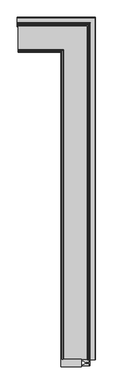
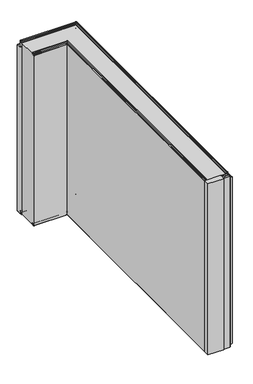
"""IFC4 building model written with IfcOpenShell, lengths in millimetres: plate geometry, Угловой модуль Fronttop : Угловой модуль Fronttop 150/1000."""

from ifc_helpers import new_model, si_unit, point, frame, frame_2d, origin, origin_with_axes, place, context, project, spatial, polyline, circle_curve, ellipse_curve, trimmed, segment, composite_curve, outline, extrude, source, transform, mapped, element, save
from ifc_brep_helpers import plane_surface, cylinder_surface, revolved_surface, advanced_brep


def plate_8fd71738(model_context):
    return source(origin(), model_context, "Body", "SolidModel", [
        extrude(outline(polyline([(150.0, -1323.4948846), (150.0, -1346.5051154), (148.5, -1346.5051154), (148.5, -1335.6502496), (134.0759655, -1335.6502496), (134.0759655, -1334.35), (148.5, -1334.35), (148.5, -1323.4948846), (150.0, -1323.4948846)])), origin_with_axes(), (0.0, 0.0, 1.0), 1000.0),
        extrude(outline(composite_curve([segment(polyline([(148.5, -1322.4998455), (148.5, -1334.25), (132.5, -1334.25), (132.5, -1335.75), (148.5, -1335.75), (148.5, -1347.5001545), (115.0, -1347.5001545), (115.0, -1344.75), (117.5, -1344.75)]), True, "CONTINUOUS"), segment(trimmed(circle_curve(frame_2d((114.3183984, -1326.9661979)), 18.0661619), [point((117.5, -1344.75))], [point((130.5, -1335.0))], True, "CARTESIAN"), True, "CONTINUOUS"), segment(trimmed(circle_curve(frame_2d((114.3183984, -1343.0338021)), 18.0661619), [point((130.5, -1335.0))], [point((117.5, -1325.25))], True, "CARTESIAN"), True, "CONTINUOUS"), segment(polyline([(117.5, -1325.25), (115.0, -1325.25), (115.0, -1322.4998455), (148.5, -1322.4998455)]), True, "CONTINUOUS")], self_intersect=False)), origin_with_axes(), (0.0, 0.0, 1.0), 1000.0),
        extrude(outline(polyline([(25.0, -1350.5), (25.0, -1319.5), (113.0, -1319.5), (113.0, -1350.5), (25.0, -1350.5)])), origin_with_axes(), (0.0, 0.0, 1.0), 1000.0),
        advanced_brep(
        [(-161.5, 124.0, 1008.0), (-161.5, 121.0, 1008.0), (-161.5, 121.0, 1004.0), (-161.5, 117.0, 1000.0), (-161.5, 115.0, 1000.0), (-161.5, 115.0, 1001.0), (-161.5, 117.0, 1001.0), (-161.5, 120.0, 1004.0), (-161.5, 120.0, 1008.0), (-161.5, 125.0, 1008.0), (-161.5, 125.0, 1000.0), (-161.5, 124.0, 1000.0), (-161.5, 115.0, 2.0), (140.0, 115.0, 2.0), (140.0, 115.0, 3.0), (-161.5, 115.0, 3.0), (140.0, -1321.5, 3.0), (142.0, -1321.5, 3.0), (142.0, 117.0, 3.0), (-161.5, 117.0, 3.0), (143.0, 118.0, 4.0), (-161.5, 118.0, 4.0), (143.0, 118.0, 8.0), (-161.5, 118.0, 8.0), (152.0, 127.0, 8.0), (-161.5, 127.0, 8.0), (152.0, 127.0, 0.0), (-161.5, 127.0, 0.0), (154.0, 129.0, -2.0), (-161.5, 129.0, -2.0), (154.0, -1321.5, -2.0), (172.0, -1321.5, -2.0), (172.0, 147.0, -2.0), (-161.5, 147.0, -2.0), (174.0, 149.0, 0.0), (-161.5, 149.0, 0.0), (174.0, 149.0, 969.0), (-161.5, 149.0, 969.0), (172.0, 147.0, 971.0), (-161.5, 147.0, 971.0), (172.0, -1321.5, 971.0), (153.0, -1321.5, 971.0), (153.0, 128.0, 971.0), (-161.5, 128.0, 971.0), (149.0, 124.0, 975.0), (-161.5, 124.0, 975.0), (149.0, 124.0, 1008.0), (146.0, 121.0, 1008.0), (146.0, 121.0, 1004.0), (142.0, 117.0, 1000.0), (142.0, -1321.5, 1000.0), (140.0, -1321.5, 1000.0), (140.0, 115.0, 1000.0), (140.0, 115.0, 1001.0), (140.0, -1321.5, 1001.0), (142.0, -1321.5, 1001.0), (142.0, 117.0, 1001.0), (145.0, 120.0, 1004.0), (145.0, 120.0, 1008.0), (150.0, 125.0, 1008.0), (150.0, 125.0, 975.0), (-161.5, 125.0, 975.0), (-162.5, 125.0, 975.0), (-162.5, 125.0, 1000.0), (153.0, 128.0, 972.0), (-161.5, 128.0, 972.0), (153.0, -1321.5, 972.0), (153.0, -1322.5, 972.0), (172.0, -1322.5, 972.0), (172.0, -1321.5, 972.0), (172.0, 147.0, 972.0), (-161.5, 147.0, 972.0), (-162.5, 147.0, 972.0), (-162.5, 128.0, 972.0), (175.0, 150.0, 969.0), (-161.5, 150.0, 969.0), (175.0, 150.0, 0.0), (-161.5, 150.0, 0.0), (-162.5, 150.0, 0.0), (-162.5, 150.0, 969.0), (172.0, 147.0, -3.0), (-161.5, 147.0, -3.0), (172.0, -1321.5, -3.0), (172.0, -1322.5, -3.0), (150.0, -1322.5, -3.0), (150.0, -1321.5, -3.0), (154.0, -1321.5, -3.0), (154.0, 129.0, -3.0), (-161.5, 129.0, -3.0), (-161.5, 125.0, -3.0), (-162.5, 125.0, -3.0), (-162.5, 147.0, -3.0), (151.0, 126.0, 0.0), (-161.5, 126.0, 0.0), (151.0, 126.0, 8.0), (-161.5, 126.0, 8.0), (144.0, 119.0, 8.0), (-161.5, 119.0, 8.0), (144.0, 119.0, 4.0), (-161.5, 119.0, 4.0), (142.0, 117.0, 2.0), (-161.5, 117.0, 2.0), (142.0, -1321.5, 2.0), (140.0, -1321.5, 2.0), (146.0, -1321.5, 1004.0), (146.0, -1321.5, 1008.0), (149.0, -1321.5, 1008.0), (149.0, -1321.5, 1000.0), (150.0, -1321.5, 1000.0), (150.0, -1321.5, 1008.0), (145.0, -1321.5, 1008.0), (145.0, -1321.5, 1004.0), (143.0, -1321.5, 4.0), (143.0, -1321.5, 8.0), (152.0, -1321.5, 8.0), (152.0, -1321.5, 0.0), (174.0, -1321.5, 0.0), (174.0, -1321.5, 969.0), (149.0, -1321.5, 975.0), (150.0, -1322.5, 1000.0), (150.0, -1322.5, 975.0), (150.0, -1321.5, 975.0), (175.0, -1321.5, 969.0), (175.0, -1322.5, 969.0), (175.0, -1322.5, 0.0), (175.0, -1321.5, 0.0), (151.0, -1321.5, 0.0), (151.0, -1321.5, 8.0), (144.0, -1321.5, 8.0), (144.0, -1321.5, 4.0), (-161.5, 110.0, 1000.0), (-161.5, 110.0, 0.0), (-161.5, 125.0, 0.0), (-162.5, 125.0, 0.0), (-162.5, 110.0, 0.0), (-162.5, 110.0, 1000.0), (135.0, -1321.5, 0.0), (135.0, -1321.5, 1000.0), (150.0, -1321.5, 0.0), (135.0, -1322.5, 0.0), (150.0, -1322.5, 0.0), (135.0, -1322.5, 1000.0)],
        [
            (0, 1, circle_curve(frame((-161.5, 122.5, 1008.0), z_axis=(1.0, 0.0, 0.0), x_axis=(0.0, -1.0, 0.0)), 1.5)),
            (1, 2),
            (2, 3, circle_curve(frame((-161.5, 117.0, 1004.0), z_axis=(-1.0, 0.0, 0.0), x_axis=(0.0, -1.0, 0.0)), 4.0)),
            (3, 4),
            (4, 5),
            (5, 6),
            (6, 7, circle_curve(frame((-161.5, 117.0, 1004.0), z_axis=(1.0, 0.0, 0.0), x_axis=(0.0, -1.0, 0.0)), 3.0)),
            (7, 8),
            (8, 9, circle_curve(frame((-161.5, 122.5, 1008.0), z_axis=(-1.0, 0.0, 0.0), x_axis=(0.0, -1.0, 0.0)), 2.5)),
            (9, 10),
            (10, 11),
            (11, 0),
            (12, 13),
            (13, 14),
            (14, 15),
            (15, 12),
            (14, 16),
            (16, 17),
            (17, 18),
            (18, 19),
            (19, 15),
            (18, 20, ellipse_curve(frame((142.0, 117.0, 4.0), z_axis=(0.7071067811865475, -0.7071067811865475, 0.0), x_axis=(0.7071067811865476, 0.7071067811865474, 0.0)), 1.4142136, 1.0)),
            (20, 21),
            (21, 19, circle_curve(frame((-161.5, 117.0, 4.0), z_axis=(-1.0, 0.0, 0.0), x_axis=(0.0, -1.0, 0.0)), 1.0)),
            (20, 22),
            (22, 23),
            (23, 21),
            (22, 24, ellipse_curve(frame((147.5, 122.5, 8.0), z_axis=(-0.7071067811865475, 0.7071067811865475, 0.0), x_axis=(-0.7071067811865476, -0.7071067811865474, 0.0)), 6.363961, 4.5)),
            (24, 25),
            (25, 23, circle_curve(frame((-161.5, 122.5, 8.0), z_axis=(1.0, 0.0, 0.0), x_axis=(0.0, -1.0, 0.0)), 4.5)),
            (24, 26),
            (26, 27),
            (27, 25),
            (26, 28, ellipse_curve(frame((154.0, 129.0, 0.0), z_axis=(0.7071067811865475, -0.7071067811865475, 0.0), x_axis=(0.7071067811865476, 0.7071067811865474, 0.0)), 2.8284271, 2.0)),
            (28, 29),
            (29, 27, circle_curve(frame((-161.5, 129.0, 0.0), z_axis=(-1.0, 0.0, 0.0), x_axis=(0.0, -1.0, 0.0)), 2.0)),
            (28, 30),
            (30, 31),
            (31, 32),
            (32, 33),
            (33, 29),
            (32, 34, ellipse_curve(frame((172.0, 147.0, 0.0), z_axis=(0.7071067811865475, -0.7071067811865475, 0.0), x_axis=(0.7071067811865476, 0.7071067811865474, 0.0)), 2.8284271, 2.0)),
            (34, 35),
            (35, 33, circle_curve(frame((-161.5, 147.0, 0.0), z_axis=(-1.0, 0.0, 0.0), x_axis=(0.0, -1.0, 0.0)), 2.0)),
            (34, 36),
            (36, 37),
            (37, 35),
            (36, 38, ellipse_curve(frame((172.0, 147.0, 969.0), z_axis=(0.7071067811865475, -0.7071067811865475, 0.0), x_axis=(0.7071067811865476, 0.7071067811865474, 0.0)), 2.8284271, 2.0)),
            (38, 39),
            (39, 37, circle_curve(frame((-161.5, 147.0, 969.0), z_axis=(-1.0, 0.0, 0.0), x_axis=(0.0, -1.0, 0.0)), 2.0)),
            (38, 40),
            (40, 41),
            (41, 42),
            (42, 43),
            (43, 39),
            (42, 44, ellipse_curve(frame((153.0, 128.0, 975.0), z_axis=(-0.7071067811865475, 0.7071067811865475, 0.0), x_axis=(-0.7071067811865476, -0.7071067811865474, 0.0)), 5.6568542, 4.0)),
            (44, 45),
            (45, 43, circle_curve(frame((-161.5, 128.0, 975.0), z_axis=(1.0, 0.0, 0.0), x_axis=(0.0, -1.0, 0.0)), 4.0)),
            (44, 46),
            (46, 0),
            (11, 45),
            (46, 47, ellipse_curve(frame((147.5, 122.5, 1008.0), z_axis=(0.7071067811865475, -0.7071067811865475, 0.0), x_axis=(0.7071067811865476, 0.7071067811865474, 0.0)), 2.1213203, 1.5)),
            (47, 1),
            (47, 48),
            (48, 2),
            (48, 49, ellipse_curve(frame((142.0, 117.0, 1004.0), z_axis=(-0.7071067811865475, 0.7071067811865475, 0.0), x_axis=(-0.7071067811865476, -0.7071067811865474, 0.0)), 5.6568542, 4.0)),
            (49, 3),
            (49, 50),
            (50, 51),
            (51, 52),
            (52, 4),
            (4, 3),
            (52, 53),
            (53, 5),
            (53, 54),
            (54, 55),
            (55, 56),
            (56, 6),
            (56, 57, ellipse_curve(frame((142.0, 117.0, 1004.0), z_axis=(0.7071067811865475, -0.7071067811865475, 0.0), x_axis=(0.7071067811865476, 0.7071067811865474, 0.0)), 4.2426407, 3.0)),
            (57, 7),
            (57, 58),
            (58, 8),
            (58, 59, ellipse_curve(frame((147.5, 122.5, 1008.0), z_axis=(-0.7071067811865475, 0.7071067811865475, 0.0), x_axis=(-0.7071067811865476, -0.7071067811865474, 0.0)), 3.5355339, 2.5)),
            (59, 9),
            (59, 60),
            (60, 61),
            (61, 62),
            (62, 63),
            (63, 10),
            (60, 64, ellipse_curve(frame((153.0, 128.0, 975.0), z_axis=(0.7071067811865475, -0.7071067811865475, 0.0), x_axis=(0.7071067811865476, 0.7071067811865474, 0.0)), 4.2426407, 3.0)),
            (64, 65),
            (65, 61, circle_curve(frame((-161.5, 128.0, 975.0), z_axis=(-1.0, 0.0, 0.0), x_axis=(0.0, -1.0, 0.0)), 3.0)),
            (64, 66),
            (66, 67),
            (67, 68),
            (68, 69),
            (69, 70),
            (70, 71),
            (71, 72),
            (72, 73),
            (73, 65),
            (70, 74, ellipse_curve(frame((172.0, 147.0, 969.0), z_axis=(-0.7071067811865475, 0.7071067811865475, 0.0), x_axis=(-0.7071067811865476, -0.7071067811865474, 0.0)), 4.2426407, 3.0)),
            (74, 75),
            (75, 71, circle_curve(frame((-161.5, 147.0, 969.0), z_axis=(1.0, 0.0, 0.0), x_axis=(0.0, -1.0, 0.0)), 3.0)),
            (74, 76),
            (76, 77),
            (77, 78),
            (78, 79),
            (79, 75),
            (76, 80, ellipse_curve(frame((172.0, 147.0, 0.0), z_axis=(-0.7071067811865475, 0.7071067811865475, 0.0), x_axis=(-0.7071067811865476, -0.7071067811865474, 0.0)), 4.2426407, 3.0)),
            (80, 81),
            (81, 77, circle_curve(frame((-161.5, 147.0, 0.0), z_axis=(1.0, 0.0, 0.0), x_axis=(0.0, -1.0, 0.0)), 3.0)),
            (80, 82),
            (82, 83),
            (83, 84),
            (84, 85),
            (85, 86),
            (86, 87),
            (87, 88),
            (88, 89),
            (89, 90),
            (90, 91),
            (91, 81),
            (87, 92, ellipse_curve(frame((154.0, 129.0, 0.0), z_axis=(-0.7071067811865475, 0.7071067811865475, 0.0), x_axis=(-0.7071067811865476, -0.7071067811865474, 0.0)), 4.2426407, 3.0)),
            (92, 93),
            (93, 88, circle_curve(frame((-161.5, 129.0, 0.0), z_axis=(1.0, 0.0, 0.0), x_axis=(0.0, -1.0, 0.0)), 3.0)),
            (92, 94),
            (94, 95),
            (95, 93),
            (94, 96, ellipse_curve(frame((147.5, 122.5, 8.0), z_axis=(0.7071067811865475, -0.7071067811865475, 0.0), x_axis=(0.7071067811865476, 0.7071067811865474, 0.0)), 4.9497475, 3.5)),
            (96, 97),
            (97, 95, circle_curve(frame((-161.5, 122.5, 8.0), z_axis=(-1.0, 0.0, 0.0), x_axis=(0.0, -1.0, 0.0)), 3.5)),
            (96, 98),
            (98, 99),
            (99, 97),
            (98, 100, ellipse_curve(frame((142.0, 117.0, 4.0), z_axis=(-0.7071067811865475, 0.7071067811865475, 0.0), x_axis=(-0.7071067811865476, -0.7071067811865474, 0.0)), 2.8284271, 2.0)),
            (100, 101),
            (101, 99, circle_curve(frame((-161.5, 117.0, 4.0), z_axis=(1.0, 0.0, 0.0), x_axis=(0.0, -1.0, 0.0)), 2.0)),
            (12, 101),
            (100, 102),
            (102, 103),
            (103, 13),
            (54, 51),
            (51, 50),
            (50, 104, circle_curve(frame((142.0, -1321.5, 1004.0), z_axis=(0.0, -1.0, 0.0), x_axis=(-1.0, 0.0, 0.0)), 4.0)),
            (104, 105),
            (105, 106, circle_curve(frame((147.5, -1321.5, 1008.0), z_axis=(0.0, 1.0, 0.0), x_axis=(-1.0, 0.0, 0.0)), 1.5)),
            (106, 107),
            (107, 108),
            (108, 109),
            (109, 110, circle_curve(frame((147.5, -1321.5, 1008.0), z_axis=(0.0, -1.0, 0.0), x_axis=(-1.0, 0.0, 0.0)), 2.5)),
            (110, 111),
            (111, 55, circle_curve(frame((142.0, -1321.5, 1004.0), z_axis=(0.0, 1.0, 0.0), x_axis=(-1.0, 0.0, 0.0)), 3.0)),
            (103, 16),
            (17, 112, circle_curve(frame((142.0, -1321.5, 4.0), z_axis=(0.0, -1.0, 0.0), x_axis=(-1.0, 0.0, 0.0)), 1.0)),
            (112, 20),
            (112, 113),
            (113, 22),
            (113, 114, circle_curve(frame((147.5, -1321.5, 8.0), z_axis=(0.0, 1.0, 0.0), x_axis=(-1.0, 0.0, 0.0)), 4.5)),
            (114, 24),
            (114, 115),
            (115, 26),
            (115, 30, circle_curve(frame((154.0, -1321.5, 0.0), z_axis=(0.0, -1.0, 0.0), x_axis=(-1.0, 0.0, 0.0)), 2.0)),
            (31, 116, circle_curve(frame((172.0, -1321.5, 0.0), z_axis=(0.0, -1.0, 0.0), x_axis=(-1.0, 0.0, 0.0)), 2.0)),
            (116, 34),
            (116, 117),
            (117, 36),
            (117, 40, circle_curve(frame((172.0, -1321.5, 969.0), z_axis=(0.0, -1.0, 0.0), x_axis=(-1.0, 0.0, 0.0)), 2.0)),
            (41, 118, circle_curve(frame((153.0, -1321.5, 975.0), z_axis=(0.0, 1.0, 0.0), x_axis=(-1.0, 0.0, 0.0)), 4.0)),
            (118, 44),
            (118, 107),
            (106, 46),
            (105, 47),
            (104, 48),
            (111, 57),
            (110, 58),
            (109, 59),
            (108, 119),
            (119, 120),
            (120, 121),
            (121, 60),
            (121, 66, circle_curve(frame((153.0, -1321.5, 975.0), z_axis=(0.0, -1.0, 0.0), x_axis=(-1.0, 0.0, 0.0)), 3.0)),
            (69, 122, circle_curve(frame((172.0, -1321.5, 969.0), z_axis=(0.0, 1.0, 0.0), x_axis=(-1.0, 0.0, 0.0)), 3.0)),
            (122, 74),
            (122, 123),
            (123, 124),
            (124, 125),
            (125, 76),
            (125, 82, circle_curve(frame((172.0, -1321.5, 0.0), z_axis=(0.0, 1.0, 0.0), x_axis=(-1.0, 0.0, 0.0)), 3.0)),
            (86, 126, circle_curve(frame((154.0, -1321.5, 0.0), z_axis=(0.0, 1.0, 0.0), x_axis=(-1.0, 0.0, 0.0)), 3.0)),
            (126, 92),
            (126, 127),
            (127, 94),
            (127, 128, circle_curve(frame((147.5, -1321.5, 8.0), z_axis=(0.0, -1.0, 0.0), x_axis=(-1.0, 0.0, 0.0)), 3.5)),
            (128, 96),
            (128, 129),
            (129, 98),
            (129, 102, circle_curve(frame((142.0, -1321.5, 4.0), z_axis=(0.0, 1.0, 0.0), x_axis=(-1.0, 0.0, 0.0)), 2.0)),
            (130, 131),
            (131, 132),
            (132, 89),
            (11, 3),
            (4, 130),
            (62, 73, circle_curve(frame((-162.5, 128.0, 975.0), z_axis=(1.0, 0.0, 0.0), x_axis=(0.0, 1.0, 0.0)), 3.0)),
            (72, 79, circle_curve(frame((-162.5, 147.0, 969.0), z_axis=(-1.0, 0.0, 0.0), x_axis=(0.0, 1.0, 0.0)), 3.0)),
            (78, 91, circle_curve(frame((-162.5, 147.0, 0.0), z_axis=(-1.0, 0.0, 0.0), x_axis=(0.0, 1.0, 0.0)), 3.0)),
            (90, 133),
            (133, 134),
            (134, 135),
            (135, 63),
            (135, 130),
            (134, 131),
            (133, 132),
            (136, 137),
            (137, 51),
            (50, 107),
            (85, 138),
            (138, 136),
            (139, 140),
            (140, 84),
            (83, 124, circle_curve(frame((172.0, -1322.5, 0.0), z_axis=(0.0, -1.0, 0.0), x_axis=(-1.0, 0.0, 0.0)), 3.0)),
            (123, 68, circle_curve(frame((172.0, -1322.5, 969.0), z_axis=(0.0, -1.0, 0.0), x_axis=(-1.0, 0.0, 0.0)), 3.0)),
            (67, 120, circle_curve(frame((153.0, -1322.5, 975.0), z_axis=(0.0, 1.0, 0.0), x_axis=(-1.0, 0.0, 0.0)), 3.0)),
            (119, 141),
            (141, 139),
            (138, 140),
            (139, 136),
            (137, 141),
        ],
        [
            plane_surface(frame((-161.5, 0.0, 0.0), z_axis=(-1.0, 0.0, 0.0), x_axis=(0.0, 0.0, 1.0))),
            plane_surface(frame((-161.5, 115.0, 2.0), z_axis=(0.0, -1.0, 0.0), x_axis=(1.0, 0.0, 0.0))),
            plane_surface(frame((-161.5, 115.0, 3.0), z_axis=(0.0, 0.0, 1.0), x_axis=(1.0, 0.0, 0.0))),
            revolved_surface(polyline([(143.00000002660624, 116.0, 4.0), (-161.5, 116.0, 4.0)]), (-161.5, 117.0, 4.0), (1.0, 0.0, 0.0)),
            plane_surface(frame((-161.5, 118.0, 4.0), z_axis=(0.0, -1.0, 0.0), x_axis=(1.0, 0.0, 0.0))),
            cylinder_surface(frame((-161.5, 122.5, 8.0), z_axis=(-1.0, 0.0, 0.0), x_axis=(0.0, -1.0, 0.0)), 4.5),
            plane_surface(frame((-161.5, 127.0, 8.0), z_axis=(0.0, 1.0, 0.0), x_axis=(1.0, 0.0, 0.0))),
            revolved_surface(polyline([(155.99999998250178, 127.0, 0.0), (-161.5, 127.0, 0.0)]), (-161.5, 129.0, 0.0), (1.0, 0.0, 0.0)),
            plane_surface(frame((-161.5, 129.0, -2.0), z_axis=(0.0, 0.0, 1.0), x_axis=(1.0, 0.0, 0.0))),
            revolved_surface(polyline([(174.0, 145.0, 0.0), (-161.5, 145.0, 0.0)]), (-161.5, 147.0, 0.0), (1.0, 0.0, 0.0)),
            plane_surface(frame((-161.5, 149.0, 0.0), z_axis=(0.0, -1.0, 0.0), x_axis=(1.0, 0.0, 0.0))),
            revolved_surface(polyline([(174.0, 145.0, 969.0), (-161.5, 145.0, 969.0)]), (-161.5, 147.0, 969.0), (1.0, 0.0, 0.0)),
            plane_surface(frame((-161.5, 147.0, 971.0), z_axis=(0.0, 0.0, -1.0), x_axis=(1.0, 0.0, 0.0))),
            cylinder_surface(frame((-161.5, 128.0, 975.0), z_axis=(-1.0, 0.0, 0.0), x_axis=(0.0, -1.0, 0.0)), 4.0),
            plane_surface(frame((-161.5, 124.0, 975.0), z_axis=(0.0, -1.0, 0.0), x_axis=(1.0, 0.0, 0.0))),
            revolved_surface(polyline([(149.0, 121.0, 1008.0), (-161.5, 121.0, 1008.0)]), (-161.5, 122.5, 1008.0), (1.0, 0.0, 0.0)),
            plane_surface(frame((-161.5, 121.0, 1008.0), z_axis=(0.0, 1.0, 0.0), x_axis=(1.0, 0.0, 0.0))),
            cylinder_surface(frame((-161.5, 117.0, 1004.0), z_axis=(-1.0, 0.0, 0.0), x_axis=(0.0, -1.0, 0.0)), 4.0),
            plane_surface(frame((-161.5, 117.0, 1000.0), z_axis=(0.0, 0.0, -1.0), x_axis=(1.0, 0.0, 0.0))),
            plane_surface(frame((-161.5, 115.0, 1000.0), z_axis=(0.0, -1.0, 0.0), x_axis=(1.0, 0.0, 0.0))),
            plane_surface(frame((-161.5, 115.0, 1001.0), z_axis=(0.0, 0.0, 1.0), x_axis=(1.0, 0.0, 0.0))),
            revolved_surface(polyline([(145.00000000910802, 114.0, 1004.0), (-161.5, 114.0, 1004.0)]), (-161.5, 117.0, 1004.0), (1.0, 0.0, 0.0)),
            plane_surface(frame((-161.5, 120.0, 1004.0), z_axis=(0.0, -1.0, 0.0), x_axis=(1.0, 0.0, 0.0))),
            cylinder_surface(frame((-161.5, 122.5, 1008.0), z_axis=(-1.0, 0.0, 0.0), x_axis=(0.0, -1.0, 0.0)), 2.5),
            plane_surface(frame((-161.5, 125.0, 1008.0), z_axis=(0.0, 1.0, 0.0), x_axis=(1.0, 0.0, 0.0))),
            revolved_surface(polyline([(156.00000000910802, 125.0, 975.0), (-161.5, 125.0, 975.0)]), (-161.5, 128.0, 975.0), (1.0, 0.0, 0.0)),
            plane_surface(frame((-161.5, 128.0, 972.0), z_axis=(0.0, 0.0, 1.0), x_axis=(1.0, 0.0, 0.0))),
            cylinder_surface(frame((-161.5, 147.0, 969.0), z_axis=(-1.0, 0.0, 0.0), x_axis=(0.0, -1.0, 0.0)), 3.0),
            plane_surface(frame((-161.5, 150.0, 969.0), z_axis=(0.0, 1.0, 0.0), x_axis=(1.0, 0.0, 0.0))),
            cylinder_surface(frame((-161.5, 147.0, 0.0), z_axis=(-1.0, 0.0, 0.0), x_axis=(0.0, -1.0, 0.0)), 3.0),
            plane_surface(frame((-161.5, 147.0, -3.0), z_axis=(0.0, 0.0, -1.0), x_axis=(1.0, 0.0, 0.0))),
            cylinder_surface(frame((-161.5, 129.0, 0.0), z_axis=(-1.0, 0.0, 0.0), x_axis=(0.0, -1.0, 0.0)), 3.0),
            plane_surface(frame((-161.5, 126.0, 0.0), z_axis=(0.0, -1.0, 0.0), x_axis=(1.0, 0.0, 0.0))),
            revolved_surface(polyline([(151.00000002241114, 119.0, 8.0), (-161.5, 119.0, 8.0)]), (-161.5, 122.5, 8.0), (1.0, 0.0, 0.0)),
            plane_surface(frame((-161.5, 119.0, 8.0), z_axis=(0.0, 1.0, 0.0), x_axis=(1.0, 0.0, 0.0))),
            cylinder_surface(frame((-161.5, 117.0, 4.0), z_axis=(-1.0, 0.0, 0.0), x_axis=(0.0, -1.0, 0.0)), 2.0),
            plane_surface(frame((-161.5, 117.0, 2.0), z_axis=(0.0, 0.0, -1.0), x_axis=(1.0, 0.0, 0.0))),
            plane_surface(frame((25.0, -1321.5, 0.0), z_axis=(0.0, -1.0, 0.0), x_axis=(0.0, 0.0, 1.0))),
            plane_surface(frame((140.0, 115.0, 2.0), z_axis=(-1.0, 0.0, 0.0), x_axis=(0.0, -1.0, 0.0))),
            revolved_surface(polyline([(141.0, -1321.5, 4.0), (141.0, 118.00000002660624, 4.0)]), (142.0, 0.0, 4.0), (0.0, -1.0, 0.0)),
            plane_surface(frame((143.0, 118.0, 4.0), z_axis=(-1.0, 0.0, 0.0), x_axis=(0.0, -1.0, 0.0))),
            cylinder_surface(frame((147.5, 0.0, 8.0), z_axis=(0.0, 1.0, 0.0), x_axis=(-1.0, 0.0, 0.0)), 4.5),
            plane_surface(frame((152.0, 127.0, 8.0), z_axis=(1.0, 0.0, 0.0), x_axis=(0.0, -1.0, 0.0))),
            revolved_surface(polyline([(152.0, -1321.5, 0.0), (152.0, 130.9999999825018, 0.0)]), (154.0, 0.0, 0.0), (0.0, -1.0, 0.0)),
            revolved_surface(polyline([(170.0, -1321.5, 0.0), (170.0, 149.0, 0.0)]), (172.0, 0.0, 0.0), (0.0, -1.0, 0.0)),
            plane_surface(frame((174.0, 149.0, 0.0), z_axis=(-1.0, 0.0, 0.0), x_axis=(0.0, -1.0, 0.0))),
            revolved_surface(polyline([(170.0, -1321.5, 969.0), (170.0, 149.0, 969.0)]), (172.0, 0.0, 969.0), (0.0, -1.0, 0.0)),
            cylinder_surface(frame((153.0, 0.0, 975.0), z_axis=(0.0, 1.0, 0.0), x_axis=(-1.0, 0.0, 0.0)), 4.0),
            plane_surface(frame((149.0, 124.0, 975.0), z_axis=(-1.0, 0.0, 0.0), x_axis=(0.0, -1.0, 0.0))),
            revolved_surface(polyline([(146.0, -1321.5, 1008.0), (146.0, 124.0, 1008.0)]), (147.5, 0.0, 1008.0), (0.0, -1.0, 0.0)),
            plane_surface(frame((146.0, 121.0, 1008.0), z_axis=(1.0, 0.0, 0.0), x_axis=(0.0, -1.0, 0.0))),
            cylinder_surface(frame((142.0, 0.0, 1004.0), z_axis=(0.0, 1.0, 0.0), x_axis=(-1.0, 0.0, 0.0)), 4.0),
            plane_surface(frame((140.0, 115.0, 1000.0), z_axis=(-1.0, 0.0, 0.0), x_axis=(0.0, -1.0, 0.0))),
            revolved_surface(polyline([(139.0, -1321.5, 1004.0), (139.0, 120.00000000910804, 1004.0)]), (142.0, 0.0, 1004.0), (0.0, -1.0, 0.0)),
            plane_surface(frame((145.0, 120.0, 1004.0), z_axis=(-1.0, 0.0, 0.0), x_axis=(0.0, -1.0, 0.0))),
            cylinder_surface(frame((147.5, 0.0, 1008.0), z_axis=(0.0, 1.0, 0.0), x_axis=(-1.0, 0.0, 0.0)), 2.5),
            plane_surface(frame((150.0, 125.0, 1008.0), z_axis=(1.0, 0.0, 0.0), x_axis=(0.0, -1.0, 0.0))),
            revolved_surface(polyline([(150.0, -1321.5, 975.0), (150.0, 131.00000000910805, 975.0)]), (153.0, 0.0, 975.0), (0.0, -1.0, 0.0)),
            cylinder_surface(frame((172.0, 0.0, 969.0), z_axis=(0.0, 1.0, 0.0), x_axis=(-1.0, 0.0, 0.0)), 3.0),
            plane_surface(frame((175.0, 150.0, 969.0), z_axis=(1.0, 0.0, 0.0), x_axis=(0.0, -1.0, 0.0))),
            cylinder_surface(frame((172.0, 0.0, 0.0), z_axis=(0.0, 1.0, 0.0), x_axis=(-1.0, 0.0, 0.0)), 3.0),
            cylinder_surface(frame((154.0, 0.0, 0.0), z_axis=(0.0, 1.0, 0.0), x_axis=(-1.0, 0.0, 0.0)), 3.0),
            plane_surface(frame((151.0, 126.0, 0.0), z_axis=(-1.0, 0.0, 0.0), x_axis=(0.0, -1.0, 0.0))),
            revolved_surface(polyline([(144.0, -1321.5, 8.0), (144.0, 126.00000002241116, 8.0)]), (147.5, 0.0, 8.0), (0.0, -1.0, 0.0)),
            plane_surface(frame((144.0, 119.0, 8.0), z_axis=(1.0, 0.0, 0.0), x_axis=(0.0, -1.0, 0.0))),
            cylinder_surface(frame((142.0, 0.0, 4.0), z_axis=(0.0, 1.0, 0.0), x_axis=(-1.0, 0.0, 0.0)), 2.0),
            plane_surface(frame((-161.5, 125.0, 1000.0), z_axis=(1.0, 0.0, 0.0), x_axis=(0.0, -1.0, 0.0))),
            plane_surface(frame((-162.5, 125.0, 1000.0), z_axis=(-1.0, 0.0, 0.0), x_axis=(0.0, 1.0, 0.0))),
            plane_surface(frame((-161.5, 125.0, 1000.0), z_axis=(0.0, 0.0, 1.0), x_axis=(-1.0, 0.0, 0.0))),
            plane_surface(frame((-161.5, 110.0, 1000.0), z_axis=(0.0, -1.0, 0.0), x_axis=(-1.0, 0.0, 0.0))),
            plane_surface(frame((-161.5, 110.0, 0.0), z_axis=(0.0, 0.0, -1.0), x_axis=(-1.0, 0.0, 0.0))),
            plane_surface(frame((-161.5, 125.0, 0.0), z_axis=(0.0, -1.0, 0.0), x_axis=(-1.0, 0.0, 0.0))),
            cylinder_surface(frame((-162.5, 147.0, 0.0), z_axis=(1.0, 0.0, 0.0), x_axis=(0.0, 1.0, 0.0)), 3.0),
            cylinder_surface(frame((-162.5, 147.0, 969.0), z_axis=(1.0, 0.0, 0.0), x_axis=(0.0, 1.0, 0.0)), 3.0),
            revolved_surface(polyline([(-162.5, 131.0, 975.0), (-161.5, 131.0, 975.0)]), (-162.5, 128.0, 975.0), (-1.0, 0.0, 0.0)),
            plane_surface(frame((135.0, -1321.5, 1000.0), z_axis=(0.0, 1.0, 0.0), x_axis=(0.0, 0.0, 1.0))),
            plane_surface(frame((135.0, -1322.5, 1000.0), z_axis=(0.0, -1.0, 0.0), x_axis=(0.0, 0.0, -1.0))),
            plane_surface(frame((150.0, -1321.5, 0.0), z_axis=(0.0, 0.0, -1.0), x_axis=(0.0, -1.0, 0.0))),
            plane_surface(frame((150.0, -1321.5, -3.0), z_axis=(-1.0, 0.0, 0.0), x_axis=(0.0, -1.0, 0.0))),
            cylinder_surface(frame((172.0, -1322.5, 0.0), z_axis=(0.0, 1.0, 0.0), x_axis=(-1.0, 0.0, 0.0)), 3.0),
            cylinder_surface(frame((172.0, -1322.5, 969.0), z_axis=(0.0, 1.0, 0.0), x_axis=(-1.0, 0.0, 0.0)), 3.0),
            revolved_surface(polyline([(150.0, -1322.5, 975.0), (150.0, -1321.5, 975.0)]), (153.0, -1322.5, 975.0), (0.0, -1.0, 0.0)),
            plane_surface(frame((135.0, -1321.5, 1000.0), z_axis=(0.0, 0.0, 1.0), x_axis=(0.0, -1.0, 0.0))),
            plane_surface(frame((135.0, -1321.5, 0.0), z_axis=(-1.0, 0.0, 0.0), x_axis=(0.0, -1.0, 0.0))),
        ],
        [
            (0, [[1, 2, 3, 4, 5, 6, 7, 8, 9, 10, 11, 12]]),
            (1, [[13, 14, 15, 16]]),
            (2, [[-15, 17, 18, 19, 20, 21]]),
            (3, [[-20, 22, 23, 24]]),
            (4, [[-23, 25, 26, 27]]),
            (5, [[-26, 28, 29, 30]]),
            (6, [[-29, 31, 32, 33]]),
            (7, [[-32, 34, 35, 36]]),
            (8, [[-35, 37, 38, 39, 40, 41]]),
            (9, [[-40, 42, 43, 44]]),
            (10, [[-43, 45, 46, 47]]),
            (11, [[-46, 48, 49, 50]]),
            (12, [[-49, 51, 52, 53, 54, 55]]),
            (13, [[-54, 56, 57, 58]]),
            (14, [[-57, 59, 60, -12, 61]]),
            (15, [[-1, -60, 62, 63]]),
            (16, [[-2, -63, 64, 65]]),
            (17, [[-3, -65, 66, 67]]),
            (18, [[-67, 68, 69, 70, 71, 72]]),
            (19, [[-5, -71, 73, 74]]),
            (20, [[-6, -74, 75, 76, 77, 78]]),
            (21, [[-7, -78, 79, 80]]),
            (22, [[-8, -80, 81, 82]]),
            (23, [[-9, -82, 83, 84]]),
            (24, [[-84, 85, 86, 87, 88, 89, -10]]),
            (25, [[-86, 90, 91, 92]]),
            (26, [[-91, 93, 94, 95, 96, 97, 98, 99, 100, 101]]),
            (27, [[-98, 102, 103, 104]]),
            (28, [[-103, 105, 106, 107, 108, 109]]),
            (29, [[-106, 110, 111, 112]]),
            (30, [[-111, 113, 114, 115, 116, 117, 118, 119, 120, 121, 122, 123]]),
            (31, [[-119, 124, 125, 126]]),
            (32, [[-125, 127, 128, 129]]),
            (33, [[-128, 130, 131, 132]]),
            (34, [[-131, 133, 134, 135]]),
            (35, [[-134, 136, 137, 138]]),
            (36, [[-13, 139, -137, 140, 141, 142]]),
            (37, [[-76, 143, 144, 145, 146, 147, 148, 149, 150, 151, 152, 153]]),
            (38, [[-14, -142, 154, -17]]),
            (39, [[-19, 155, 156, -22]]),
            (40, [[-25, -156, 157, 158]]),
            (41, [[-28, -158, 159, 160]]),
            (42, [[-31, -160, 161, 162]]),
            (43, [[-34, -162, 163, -37]]),
            (44, [[-39, 164, 165, -42]]),
            (45, [[-45, -165, 166, 167]]),
            (46, [[-48, -167, 168, -51]]),
            (47, [[-53, 169, 170, -56]]),
            (48, [[-59, -170, 171, -148, 172]]),
            (49, [[-62, -172, -147, 173]]),
            (50, [[-64, -173, -146, 174]]),
            (51, [[-66, -174, -145, -68]]),
            (52, [[-70, -143, -75, -73]]),
            (53, [[-77, -153, 175, -79]]),
            (54, [[-81, -175, -152, 176]]),
            (55, [[-83, -176, -151, 177]]),
            (56, [[-85, -177, -150, 178, 179, 180, 181]]),
            (57, [[-90, -181, 182, -93]]),
            (58, [[-97, 183, 184, -102]]),
            (59, [[-105, -184, 185, 186, 187, 188]]),
            (60, [[-110, -188, 189, -113]]),
            (61, [[-118, 190, 191, -124]]),
            (62, [[-127, -191, 192, 193]]),
            (63, [[-130, -193, 194, 195]]),
            (64, [[-133, -195, 196, 197]]),
            (65, [[-136, -197, 198, -140]]),
            (66, [[199, 200, 201, -120, -126, -129, -132, -135, -138, -139, -16, -21, -24, -27, -30, -33, -36, -41, -44, -47, -50, -55, -58, -61, 202, -72, 203]]),
            (67, [[-88, 204, -100, 205, -108, 206, -122, 207, 208, 209, 210]]),
            (68, [[-210, 211, -203, -4, -202, -11, -89]]),
            (69, [[-199, -211, -209, 212]]),
            (70, [[-200, -212, -208, 213]]),
            (71, [[-201, -213, -207, -121]]),
            (72, [[-206, -107, -112, -123]]),
            (73, [[-205, -99, -104, -109]]),
            (74, [[-204, -87, -92, -101]]),
            (75, [[214, 215, -69, 216, -171, -169, -52, -168, -166, -164, -38, -163, -161, -159, -157, -155, -18, -154, -141, -198, -196, -194, -192, -190, -117, 217, 218]]),
            (76, [[219, 220, -115, 221, -186, 222, -95, 223, -179, 224, 225]]),
            (77, [[-218, 226, -219, 227]]),
            (78, [[-217, -116, -220, -226]]),
            (79, [[-221, -114, -189, -187]]),
            (80, [[-222, -185, -183, -96]]),
            (81, [[-223, -94, -182, -180]]),
            (82, [[-224, -178, -149, -216, -144, -215, 228]]),
            (83, [[-214, -227, -225, -228]]),
        ],
    ),
        advanced_brep(
        [(-159.5, 15.0, 3.0), (-159.5, 13.0, 3.0), (-159.5, 12.0, 4.0), (-159.5, 12.0, 8.0), (-159.5, 3.0, 8.0), (-159.5, 3.0, -0.5), (-159.5, 1.0, -0.5), (-159.5, 1.0, 995.0278643), (-159.5, 2.1111111, 996.0216723), (-159.5, 6.0, 999.5), (-159.5, 6.0, 1008.0), (-159.5, 9.0, 1008.0), (-159.5, 9.0, 1004.0), (-159.5, 13.0, 1000.0), (-159.5, 117.0, 1000.0), (-159.5, 121.0, 1004.0), (-159.5, 121.0, 1008.0), (-159.5, 124.0, 1008.0), (-159.5, 124.0, 975.0), (-159.5, 128.0, 971.0), (-159.5, 147.0, 971.0), (-159.5, 149.0, 969.0), (-159.5, 149.0, 0.0), (-159.5, 147.0, -2.0), (-159.5, 129.0, -2.0), (-159.5, 127.0, 0.0), (-159.5, 127.0, 8.0), (-159.5, 118.0, 8.0), (-159.5, 118.0, 4.0), (-159.5, 117.0, 3.0), (-159.5, 115.0, 3.0), (-159.5, 115.0, 0.0), (-159.5, 15.0, 0.0), (40.0, 15.0, 0.0), (40.0, 15.0, 3.0), (140.0, 115.0, 0.0), (140.0, -1319.5, 0.0), (40.0, -1319.5, 0.0), (140.0, 115.0, 3.0), (142.0, 117.0, 3.0), (142.0, -1319.5, 3.0), (140.0, -1319.5, 3.0), (143.0, 118.0, 4.0), (143.0, 118.0, 8.0), (152.0, 127.0, 8.0), (152.0, 127.0, 0.0), (154.0, 129.0, -2.0), (172.0, 147.0, -2.0), (172.0, -1319.5, -2.0), (154.0, -1319.5, -2.0), (174.0, 149.0, 0.0), (174.0, 149.0, 969.0), (172.0, 147.0, 971.0), (153.0, 128.0, 971.0), (153.0, -1319.5, 971.0), (172.0, -1319.5, 971.0), (149.0, 124.0, 975.0), (149.0, 124.0, 1008.0), (146.0, 121.0, 1008.0), (146.0, 121.0, 1004.0), (142.0, 117.0, 1000.0), (38.0, 13.0, 1000.0), (38.0, -1319.5, 1000.0), (142.0, -1319.5, 1000.0), (34.0, 9.0, 1004.0), (34.0, 9.0, 1008.0), (31.0, 6.0, 1008.0), (31.0, 6.0, 999.5), (27.1111111, 2.1111111, 996.021672), (26.0, 1.0, 995.0278643), (26.0, 1.0, -0.5), (28.0, 3.0, -0.5), (28.0, 3.0, 8.0), (37.0, 12.0, 8.0), (37.0, 12.0, 4.0), (38.0, 13.0, 3.0), (40.0, -1319.5, 3.0), (38.0, -1319.5, 3.0), (143.0, -1319.5, 4.0), (143.0, -1319.5, 8.0), (152.0, -1319.5, 8.0), (152.0, -1319.5, 0.0), (174.0, -1319.5, 0.0), (174.0, -1319.5, 969.0), (149.0, -1319.5, 975.0), (149.0, -1319.5, 1008.0), (146.0, -1319.5, 1008.0), (146.0, -1319.5, 1004.0), (34.0, -1319.5, 1004.0), (34.0, -1319.5, 1008.0), (31.0, -1319.5, 1008.0), (31.0, -1319.5, 999.5), (27.1111111, -1319.5, 996.021672), (26.0, -1319.5, 995.0278643), (26.0, -1319.5, -0.5), (28.0, -1319.5, -0.5), (28.0, -1319.5, 8.0), (37.0, -1319.5, 8.0), (37.0, -1319.5, 4.0)],
        [
            (0, 1),
            (1, 2, circle_curve(frame((-159.5, 13.0, 4.0), z_axis=(-1.0, 0.0, 0.0), x_axis=(0.0, -1.0, 0.0)), 1.0)),
            (2, 3),
            (3, 4, circle_curve(frame((-159.5, 7.5, 8.0), z_axis=(1.0, 0.0, 0.0), x_axis=(0.0, -1.0, 0.0)), 4.5)),
            (4, 5),
            (5, 6, circle_curve(frame((-159.5, 2.0, -0.5), z_axis=(-1.0, 0.0, 0.0), x_axis=(0.0, -1.0, 0.0)), 1.0)),
            (6, 7),
            (7, 8, circle_curve(frame((-159.5, 2.0, 995.0278643), z_axis=(-1.0, 0.0, 0.0), x_axis=(0.0, -1.0, 0.0)), 1.0)),
            (8, 9, circle_curve(frame((-159.5, 2.5, 999.5), z_axis=(1.0, 0.0, 0.0), x_axis=(0.0, -1.0, 0.0)), 3.5)),
            (9, 10),
            (10, 11, circle_curve(frame((-159.5, 7.5, 1008.0), z_axis=(-1.0, 0.0, 0.0), x_axis=(0.0, -1.0, 0.0)), 1.5)),
            (11, 12),
            (12, 13, circle_curve(frame((-159.5, 13.0, 1004.0), z_axis=(1.0, 0.0, 0.0), x_axis=(0.0, -1.0, 0.0)), 4.0)),
            (13, 14),
            (14, 15, circle_curve(frame((-159.5, 117.0, 1004.0), z_axis=(1.0, 0.0, 0.0), x_axis=(0.0, -1.0, 0.0)), 4.0)),
            (15, 16),
            (16, 17, circle_curve(frame((-159.5, 122.5, 1008.0), z_axis=(-1.0, 0.0, 0.0), x_axis=(0.0, -1.0, 0.0)), 1.5)),
            (17, 18),
            (18, 19, circle_curve(frame((-159.5, 128.0, 975.0), z_axis=(1.0, 0.0, 0.0), x_axis=(0.0, -1.0, 0.0)), 4.0)),
            (19, 20),
            (20, 21, circle_curve(frame((-159.5, 147.0, 969.0), z_axis=(-1.0, 0.0, 0.0), x_axis=(0.0, -1.0, 0.0)), 2.0)),
            (21, 22),
            (22, 23, circle_curve(frame((-159.5, 147.0, 0.0), z_axis=(-1.0, 0.0, 0.0), x_axis=(0.0, -1.0, 0.0)), 2.0)),
            (23, 24),
            (24, 25, circle_curve(frame((-159.5, 129.0, 0.0), z_axis=(-1.0, 0.0, 0.0), x_axis=(0.0, -1.0, 0.0)), 2.0)),
            (25, 26),
            (26, 27, circle_curve(frame((-159.5, 122.5, 8.0), z_axis=(1.0, 0.0, 0.0), x_axis=(0.0, -1.0, 0.0)), 4.5)),
            (27, 28),
            (28, 29, circle_curve(frame((-159.5, 117.0, 4.0), z_axis=(-1.0, 0.0, 0.0), x_axis=(0.0, -1.0, 0.0)), 1.0)),
            (29, 30),
            (30, 31),
            (31, 32),
            (32, 0),
            (32, 33),
            (33, 34),
            (34, 0),
            (31, 35),
            (35, 36),
            (36, 37),
            (37, 33),
            (30, 38),
            (38, 35),
            (29, 39),
            (39, 40),
            (40, 41),
            (41, 38),
            (28, 42),
            (42, 39, ellipse_curve(frame((142.0, 117.0, 4.0), z_axis=(-0.7071067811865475, 0.7071067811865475, 0.0), x_axis=(-0.7071067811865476, -0.7071067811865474, 0.0)), 1.4142136, 1.0)),
            (27, 43),
            (43, 42),
            (26, 44),
            (44, 43, ellipse_curve(frame((147.5, 122.5, 8.0), z_axis=(0.7071067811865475, -0.7071067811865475, 0.0), x_axis=(0.7071067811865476, 0.7071067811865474, 0.0)), 6.363961, 4.5)),
            (25, 45),
            (45, 44),
            (24, 46),
            (46, 45, ellipse_curve(frame((154.0, 129.0, 0.0), z_axis=(-0.7071067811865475, 0.7071067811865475, 0.0), x_axis=(-0.7071067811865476, -0.7071067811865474, 0.0)), 2.8284271, 2.0)),
            (23, 47),
            (47, 48),
            (48, 49),
            (49, 46),
            (22, 50),
            (50, 47, ellipse_curve(frame((172.0, 147.0, 0.0), z_axis=(-0.7071067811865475, 0.7071067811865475, 0.0), x_axis=(-0.7071067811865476, -0.7071067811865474, 0.0)), 2.8284271, 2.0)),
            (21, 51),
            (51, 50),
            (20, 52),
            (52, 51, ellipse_curve(frame((172.0, 147.0, 969.0), z_axis=(-0.7071067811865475, 0.7071067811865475, 0.0), x_axis=(-0.7071067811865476, -0.7071067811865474, 0.0)), 2.8284271, 2.0)),
            (19, 53),
            (53, 54),
            (54, 55),
            (55, 52),
            (18, 56),
            (56, 53, ellipse_curve(frame((153.0, 128.0, 975.0), z_axis=(0.7071067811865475, -0.7071067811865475, 0.0), x_axis=(0.7071067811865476, 0.7071067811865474, 0.0)), 5.6568542, 4.0)),
            (17, 57),
            (57, 56),
            (16, 58),
            (58, 57, ellipse_curve(frame((147.5, 122.5, 1008.0), z_axis=(-0.7071067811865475, 0.7071067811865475, 0.0), x_axis=(-0.7071067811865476, -0.7071067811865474, 0.0)), 2.1213203, 1.5)),
            (15, 59),
            (59, 58),
            (14, 60),
            (60, 59, ellipse_curve(frame((142.0, 117.0, 1004.0), z_axis=(0.7071067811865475, -0.7071067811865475, 0.0), x_axis=(0.7071067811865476, 0.7071067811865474, 0.0)), 5.6568542, 4.0)),
            (13, 61),
            (61, 62),
            (62, 63),
            (63, 60),
            (12, 64),
            (64, 61, ellipse_curve(frame((38.0, 13.0, 1004.0), z_axis=(0.7071067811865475, -0.7071067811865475, 0.0), x_axis=(0.7071067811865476, 0.7071067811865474, 0.0)), 5.6568542, 4.0)),
            (11, 65),
            (65, 64),
            (10, 66),
            (66, 65, ellipse_curve(frame((32.5, 7.5, 1008.0), z_axis=(-0.7071067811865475, 0.7071067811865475, 0.0), x_axis=(-0.7071067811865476, -0.7071067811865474, 0.0)), 2.1213204, 1.5)),
            (9, 67),
            (67, 66),
            (8, 68),
            (68, 67, ellipse_curve(frame((27.5, 2.5, 999.5), z_axis=(0.7071067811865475, -0.7071067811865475, 0.0), x_axis=(0.7071067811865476, 0.7071067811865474, 0.0)), 4.9497475, 3.5)),
            (7, 69),
            (69, 68, ellipse_curve(frame((27.0, 2.0, 995.0278643), z_axis=(-0.7071067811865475, 0.7071067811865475, 0.0), x_axis=(-0.7071067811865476, -0.7071067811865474, 0.0)), 1.4142136, 1.0)),
            (6, 70),
            (70, 69),
            (5, 71),
            (71, 70, ellipse_curve(frame((27.0, 2.0, -0.5), z_axis=(-0.7071067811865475, 0.7071067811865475, 0.0), x_axis=(-0.7071067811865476, -0.7071067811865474, 0.0)), 1.4142136, 1.0)),
            (4, 72),
            (72, 71),
            (3, 73),
            (73, 72, ellipse_curve(frame((32.5, 7.5, 8.0), z_axis=(0.7071067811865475, -0.7071067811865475, 0.0), x_axis=(0.7071067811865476, 0.7071067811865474, 0.0)), 6.363961, 4.5)),
            (2, 74),
            (74, 73),
            (1, 75),
            (75, 74, ellipse_curve(frame((38.0, 13.0, 4.0), z_axis=(-0.7071067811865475, 0.7071067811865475, 0.0), x_axis=(-0.7071067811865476, -0.7071067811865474, 0.0)), 1.4142136, 1.0)),
            (34, 76),
            (76, 77),
            (77, 75),
            (76, 37),
            (36, 41),
            (40, 78, circle_curve(frame((142.0, -1319.5, 4.0), z_axis=(0.0, -1.0, 0.0), x_axis=(-1.0, 0.0, 0.0)), 1.0)),
            (78, 79),
            (79, 80, circle_curve(frame((147.5, -1319.5, 8.0), z_axis=(0.0, 1.0, 0.0), x_axis=(-1.0, 0.0, 0.0)), 4.5)),
            (80, 81),
            (81, 49, circle_curve(frame((154.0, -1319.5, 0.0), z_axis=(0.0, -1.0, 0.0), x_axis=(-1.0, 0.0, 0.0)), 2.0)),
            (48, 82, circle_curve(frame((172.0, -1319.5, 0.0), z_axis=(0.0, -1.0, 0.0), x_axis=(-1.0, 0.0, 0.0)), 2.0)),
            (82, 83),
            (83, 55, circle_curve(frame((172.0, -1319.5, 969.0), z_axis=(0.0, -1.0, 0.0), x_axis=(-1.0, 0.0, 0.0)), 2.0)),
            (54, 84, circle_curve(frame((153.0, -1319.5, 975.0), z_axis=(0.0, 1.0, 0.0), x_axis=(-1.0, 0.0, 0.0)), 4.0)),
            (84, 85),
            (85, 86, circle_curve(frame((147.5, -1319.5, 1008.0), z_axis=(0.0, -1.0, 0.0), x_axis=(-1.0, 0.0, 0.0)), 1.5)),
            (86, 87),
            (87, 63, circle_curve(frame((142.0, -1319.5, 1004.0), z_axis=(0.0, 1.0, 0.0), x_axis=(-1.0, 0.0, 0.0)), 4.0)),
            (62, 88, circle_curve(frame((38.0, -1319.5, 1004.0), z_axis=(0.0, 1.0, 0.0), x_axis=(-1.0, 0.0, 0.0)), 4.0)),
            (88, 89),
            (89, 90, circle_curve(frame((32.5, -1319.5, 1008.0), z_axis=(0.0, -1.0, 0.0), x_axis=(-1.0, 0.0, 0.0)), 1.5)),
            (90, 91),
            (91, 92, circle_curve(frame((27.5, -1319.5, 999.5), z_axis=(0.0, 1.0, 0.0), x_axis=(-1.0, 0.0, 0.0)), 3.5)),
            (92, 93, circle_curve(frame((27.0, -1319.5, 995.0278643), z_axis=(0.0, -1.0, 0.0), x_axis=(-1.0, 0.0, 0.0)), 1.0)),
            (93, 94),
            (94, 95, circle_curve(frame((27.0, -1319.5, -0.5), z_axis=(0.0, -1.0, 0.0), x_axis=(-1.0, 0.0, 0.0)), 1.0)),
            (95, 96),
            (96, 97, circle_curve(frame((32.5, -1319.5, 8.0), z_axis=(0.0, 1.0, 0.0), x_axis=(-1.0, 0.0, 0.0)), 4.5)),
            (97, 98),
            (98, 77, circle_curve(frame((38.0, -1319.5, 4.0), z_axis=(0.0, -1.0, 0.0), x_axis=(-1.0, 0.0, 0.0)), 1.0)),
            (42, 78),
            (43, 79),
            (44, 80),
            (45, 81),
            (50, 82),
            (51, 83),
            (56, 84),
            (57, 85),
            (58, 86),
            (59, 87),
            (64, 88),
            (65, 89),
            (66, 90),
            (67, 91),
            (68, 92),
            (69, 93),
            (70, 94),
            (71, 95),
            (72, 96),
            (73, 97),
            (74, 98),
        ],
        [
            plane_surface(frame((-159.5, 0.0, 0.0), z_axis=(-1.0, 0.0, 0.0), x_axis=(0.0, 0.0, 1.0))),
            plane_surface(frame((-159.5, 15.0, 0.0), z_axis=(0.0, -1.0, 0.0), x_axis=(1.0, 0.0, 0.0))),
            plane_surface(frame((-159.5, 115.0, 0.0), z_axis=(0.0, 0.0, -1.0), x_axis=(1.0, 0.0, 0.0))),
            plane_surface(frame((-159.5, 115.0, 3.0), z_axis=(0.0, 1.0, 0.0), x_axis=(1.0, 0.0, 0.0))),
            plane_surface(frame((-159.5, 117.0, 3.0), z_axis=(0.0, 0.0, -1.0), x_axis=(1.0, 0.0, 0.0))),
            cylinder_surface(frame((-159.5, 117.0, 4.0), z_axis=(-1.0, 0.0, 0.0), x_axis=(0.0, -1.0, 0.0)), 1.0),
            plane_surface(frame((-159.5, 118.0, 8.0), z_axis=(0.0, 1.0, 0.0), x_axis=(1.0, 0.0, 0.0))),
            revolved_surface(polyline([(152.0, 118.0, 8.0), (-159.5, 118.0, 8.0)]), (-159.5, 122.5, 8.0), (1.0, 0.0, 0.0)),
            plane_surface(frame((-159.5, 127.0, 0.0), z_axis=(0.0, -1.0, 0.0), x_axis=(1.0, 0.0, 0.0))),
            cylinder_surface(frame((-159.5, 129.0, 0.0), z_axis=(-1.0, 0.0, 0.0), x_axis=(0.0, -1.0, 0.0)), 2.0),
            plane_surface(frame((-159.5, 147.0, -2.0), z_axis=(0.0, 0.0, -1.0), x_axis=(1.0, 0.0, 0.0))),
            cylinder_surface(frame((-159.5, 147.0, 0.0), z_axis=(-1.0, 0.0, 0.0), x_axis=(0.0, -1.0, 0.0)), 2.0),
            plane_surface(frame((-159.5, 149.0, 969.0), z_axis=(0.0, 1.0, 0.0), x_axis=(1.0, 0.0, 0.0))),
            cylinder_surface(frame((-159.5, 147.0, 969.0), z_axis=(-1.0, 0.0, 0.0), x_axis=(0.0, -1.0, 0.0)), 2.0),
            plane_surface(frame((-159.5, 128.0, 971.0), z_axis=(0.0, 0.0, 1.0), x_axis=(1.0, 0.0, 0.0))),
            revolved_surface(polyline([(156.9999999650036, 124.0, 975.0), (-159.5, 124.0, 975.0)]), (-159.5, 128.0, 975.0), (1.0, 0.0, 0.0)),
            plane_surface(frame((-159.5, 124.0, 1008.0), z_axis=(0.0, 1.0, 0.0), x_axis=(1.0, 0.0, 0.0))),
            cylinder_surface(frame((-159.5, 122.5, 1008.0), z_axis=(-1.0, 0.0, 0.0), x_axis=(0.0, -1.0, 0.0)), 1.5),
            plane_surface(frame((-159.5, 121.0, 1004.0), z_axis=(0.0, -1.0, 0.0), x_axis=(1.0, 0.0, 0.0))),
            revolved_surface(polyline([(146.0, 113.0, 1004.0), (-159.5, 113.0, 1004.0)]), (-159.5, 117.0, 1004.0), (1.0, 0.0, 0.0)),
            plane_surface(frame((-159.5, 13.0, 1000.0), z_axis=(0.0, 0.0, 1.0), x_axis=(1.0, 0.0, 0.0))),
            revolved_surface(polyline([(41.99999996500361, 9.0, 1004.0), (-159.5, 9.0, 1004.0)]), (-159.5, 13.0, 1004.0), (1.0, 0.0, 0.0)),
            plane_surface(frame((-159.5, 9.0, 1008.0), z_axis=(0.0, 1.0, 0.0), x_axis=(1.0, 0.0, 0.0))),
            cylinder_surface(frame((-159.5, 7.5, 1008.0), z_axis=(-1.0, 0.0, 0.0), x_axis=(0.0, -1.0, 0.0)), 1.5),
            plane_surface(frame((-159.5, 6.0, 999.5), z_axis=(0.0, -1.0, 0.0), x_axis=(1.0, 0.0, 0.0))),
            revolved_surface(polyline([(31.00000002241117, -1.0, 999.5), (-159.5, -1.0, 999.5)]), (-159.5, 2.5, 999.5), (1.0, 0.0, 0.0)),
            cylinder_surface(frame((-159.5, 2.0, 995.0278643), z_axis=(-1.0, 0.0, 0.0), x_axis=(0.0, -1.0, 0.0)), 1.0),
            plane_surface(frame((-159.5, 1.0, -0.5), z_axis=(0.0, -1.0, 0.0), x_axis=(1.0, 0.0, 0.0))),
            cylinder_surface(frame((-159.5, 2.0, -0.5), z_axis=(-1.0, 0.0, 0.0), x_axis=(0.0, -1.0, 0.0)), 1.0),
            plane_surface(frame((-159.5, 3.0, 8.0), z_axis=(0.0, 1.0, 0.0), x_axis=(1.0, 0.0, 0.0))),
            revolved_surface(polyline([(37.0, 3.0, 8.0), (-159.5, 3.0, 8.0)]), (-159.5, 7.5, 8.0), (1.0, 0.0, 0.0)),
            plane_surface(frame((-159.5, 12.0, 4.0), z_axis=(0.0, -1.0, 0.0), x_axis=(1.0, 0.0, 0.0))),
            cylinder_surface(frame((-159.5, 13.0, 4.0), z_axis=(-1.0, 0.0, 0.0), x_axis=(0.0, -1.0, 0.0)), 1.0),
            plane_surface(frame((-159.5, 15.0, 3.0), z_axis=(0.0, 0.0, -1.0), x_axis=(1.0, 0.0, 0.0))),
            plane_surface(frame((25.0, -1319.5, 0.0), z_axis=(0.0, -1.0, 0.0), x_axis=(0.0, 0.0, 1.0))),
            plane_surface(frame((40.0, 15.0, 0.0), z_axis=(-1.0, 0.0, 0.0), x_axis=(0.0, -1.0, 0.0))),
            plane_surface(frame((140.0, 115.0, 3.0), z_axis=(1.0, 0.0, 0.0), x_axis=(0.0, -1.0, 0.0))),
            cylinder_surface(frame((142.0, 0.0, 4.0), z_axis=(0.0, 1.0, 0.0), x_axis=(-1.0, 0.0, 0.0)), 1.0),
            plane_surface(frame((143.0, 118.0, 8.0), z_axis=(1.0, 0.0, 0.0), x_axis=(0.0, -1.0, 0.0))),
            revolved_surface(polyline([(143.0, -1319.5, 8.0), (143.0, 127.0, 8.0)]), (147.5, 0.0, 8.0), (0.0, -1.0, 0.0)),
            plane_surface(frame((152.0, 127.0, 0.0), z_axis=(-1.0, 0.0, 0.0), x_axis=(0.0, -1.0, 0.0))),
            cylinder_surface(frame((154.0, 0.0, 0.0), z_axis=(0.0, 1.0, 0.0), x_axis=(-1.0, 0.0, 0.0)), 2.0),
            cylinder_surface(frame((172.0, 0.0, 0.0), z_axis=(0.0, 1.0, 0.0), x_axis=(-1.0, 0.0, 0.0)), 2.0),
            plane_surface(frame((174.0, 149.0, 969.0), z_axis=(1.0, 0.0, 0.0), x_axis=(0.0, -1.0, 0.0))),
            cylinder_surface(frame((172.0, 0.0, 969.0), z_axis=(0.0, 1.0, 0.0), x_axis=(-1.0, 0.0, 0.0)), 2.0),
            revolved_surface(polyline([(149.0, -1319.5, 975.0), (149.0, 131.9999999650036, 975.0)]), (153.0, 0.0, 975.0), (0.0, -1.0, 0.0)),
            plane_surface(frame((149.0, 124.0, 1008.0), z_axis=(1.0, 0.0, 0.0), x_axis=(0.0, -1.0, 0.0))),
            cylinder_surface(frame((147.5, 0.0, 1008.0), z_axis=(0.0, 1.0, 0.0), x_axis=(-1.0, 0.0, 0.0)), 1.5),
            plane_surface(frame((146.0, 121.0, 1004.0), z_axis=(-1.0, 0.0, 0.0), x_axis=(0.0, -1.0, 0.0))),
            revolved_surface(polyline([(138.0, -1319.5, 1004.0), (138.0, 121.0, 1004.0)]), (142.0, 0.0, 1004.0), (0.0, -1.0, 0.0)),
            revolved_surface(polyline([(34.0, -1319.5, 1004.0), (34.0, 16.999999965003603, 1004.0)]), (38.0, 0.0, 1004.0), (0.0, -1.0, 0.0)),
            plane_surface(frame((34.0, 9.0, 1008.0), z_axis=(1.0, 0.0, 0.0), x_axis=(0.0, -1.0, 0.0))),
            cylinder_surface(frame((32.5, 0.0, 1008.0), z_axis=(0.0, 1.0, 0.0), x_axis=(-1.0, 0.0, 0.0)), 1.5),
            plane_surface(frame((31.0, 6.0, 999.5), z_axis=(-1.0, 0.0, 0.0), x_axis=(0.0, -1.0, 0.0))),
            revolved_surface(polyline([(24.0, -1319.5, 999.5), (24.0, 6.000000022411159, 999.5)]), (27.5, 0.0, 999.5), (0.0, -1.0, 0.0)),
            cylinder_surface(frame((27.0, 0.0, 995.0278643), z_axis=(0.0, 1.0, 0.0), x_axis=(-1.0, 0.0, 0.0)), 1.0),
            plane_surface(frame((26.0, 1.0, -0.5), z_axis=(-1.0, 0.0, 0.0), x_axis=(0.0, -1.0, 0.0))),
            cylinder_surface(frame((27.0, 0.0, -0.5), z_axis=(0.0, 1.0, 0.0), x_axis=(-1.0, 0.0, 0.0)), 1.0),
            plane_surface(frame((28.0, 3.0, 8.0), z_axis=(1.0, 0.0, 0.0), x_axis=(0.0, -1.0, 0.0))),
            revolved_surface(polyline([(28.0, -1319.5, 8.0), (28.0, 12.0, 8.0)]), (32.5, 0.0, 8.0), (0.0, -1.0, 0.0)),
            plane_surface(frame((37.0, 12.0, 4.0), z_axis=(-1.0, 0.0, 0.0), x_axis=(0.0, -1.0, 0.0))),
            cylinder_surface(frame((38.0, 0.0, 4.0), z_axis=(0.0, 1.0, 0.0), x_axis=(-1.0, 0.0, 0.0)), 1.0),
        ],
        [
            (0, [[1, 2, 3, 4, 5, 6, 7, 8, 9, 10, 11, 12, 13, 14, 15, 16, 17, 18, 19, 20, 21, 22, 23, 24, 25, 26, 27, 28, 29, 30, 31, 32, 33]]),
            (1, [[-33, 34, 35, 36]]),
            (2, [[-32, 37, 38, 39, 40, -34]]),
            (3, [[-31, 41, 42, -37]]),
            (4, [[-30, 43, 44, 45, 46, -41]]),
            (5, [[-29, 47, 48, -43]]),
            (6, [[-28, 49, 50, -47]]),
            (7, [[-27, 51, 52, -49]]),
            (8, [[-26, 53, 54, -51]]),
            (9, [[-25, 55, 56, -53]]),
            (10, [[-24, 57, 58, 59, 60, -55]]),
            (11, [[-23, 61, 62, -57]]),
            (12, [[-22, 63, 64, -61]]),
            (13, [[-21, 65, 66, -63]]),
            (14, [[-20, 67, 68, 69, 70, -65]]),
            (15, [[-19, 71, 72, -67]]),
            (16, [[-18, 73, 74, -71]]),
            (17, [[-17, 75, 76, -73]]),
            (18, [[-16, 77, 78, -75]]),
            (19, [[-15, 79, 80, -77]]),
            (20, [[-14, 81, 82, 83, 84, -79]]),
            (21, [[-13, 85, 86, -81]]),
            (22, [[-12, 87, 88, -85]]),
            (23, [[-11, 89, 90, -87]]),
            (24, [[-10, 91, 92, -89]]),
            (25, [[-9, 93, 94, -91]]),
            (26, [[-8, 95, 96, -93]]),
            (27, [[-7, 97, 98, -95]]),
            (28, [[-6, 99, 100, -97]]),
            (29, [[-5, 101, 102, -99]]),
            (30, [[-4, 103, 104, -101]]),
            (31, [[-3, 105, 106, -103]]),
            (32, [[-2, 107, 108, -105]]),
            (33, [[-1, -36, 109, 110, 111, -107]]),
            (34, [[112, -39, 113, -45, 114, 115, 116, 117, 118, -59, 119, 120, 121, -69, 122, 123, 124, 125, 126, -83, 127, 128, 129, 130, 131, 132, 133, 134, 135, 136, 137, 138, -110]]),
            (35, [[-35, -40, -112, -109]]),
            (36, [[-42, -46, -113, -38]]),
            (37, [[-48, 139, -114, -44]]),
            (38, [[-50, 140, -115, -139]]),
            (39, [[-52, 141, -116, -140]]),
            (40, [[-54, 142, -117, -141]]),
            (41, [[-56, -60, -118, -142]]),
            (42, [[-62, 143, -119, -58]]),
            (43, [[-64, 144, -120, -143]]),
            (44, [[-66, -70, -121, -144]]),
            (45, [[-72, 145, -122, -68]]),
            (46, [[-74, 146, -123, -145]]),
            (47, [[-76, 147, -124, -146]]),
            (48, [[-78, 148, -125, -147]]),
            (49, [[-80, -84, -126, -148]]),
            (50, [[-86, 149, -127, -82]]),
            (51, [[-88, 150, -128, -149]]),
            (52, [[-90, 151, -129, -150]]),
            (53, [[-92, 152, -130, -151]]),
            (54, [[-94, 153, -131, -152]]),
            (55, [[-96, 154, -132, -153]]),
            (56, [[-98, 155, -133, -154]]),
            (57, [[-100, 156, -134, -155]]),
            (58, [[-102, 157, -135, -156]]),
            (59, [[-104, 158, -136, -157]]),
            (60, [[-106, 159, -137, -158]]),
            (61, [[-108, -111, -138, -159]]),
        ],
    ),
    ])


if __name__ == "__main__":
    model = new_model("IFC4")
    model_context = context("Model", 3, world=origin())
    ifc_project = project(units=[si_unit("LENGTHUNIT", "METRE", prefix="MILLI")], contexts=[model_context])
    site = spatial("IfcSite", under=ifc_project)
    building = spatial("IfcBuilding", under=site)
    placement = place(None, origin())
    plate_shape = plate_8fd71738(model_context)
    element("IfcPlate", 1, ObjectType="Угловой модуль Fronttop : Угловой модуль Fronttop 150/1000", at=placement, inside=building, context=model_context, shape_type="MappedRepresentation", body=[
        mapped(plate_shape, transform((0.0, 0.0, 0.0), x_axis=(1.0, 0.0, 0.0), y_axis=(0.0, 1.0, 0.0), z_axis=(0.0, 0.0, 1.0))),
    ])
    save(model, "model.ifc")
